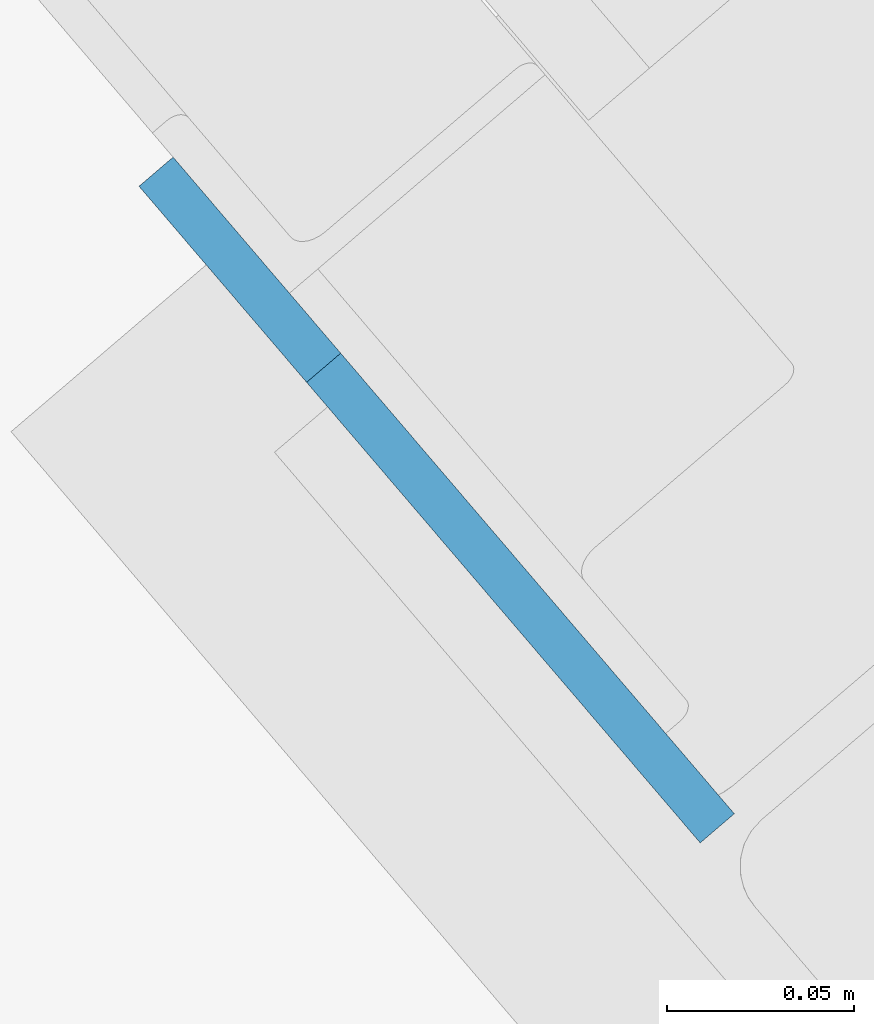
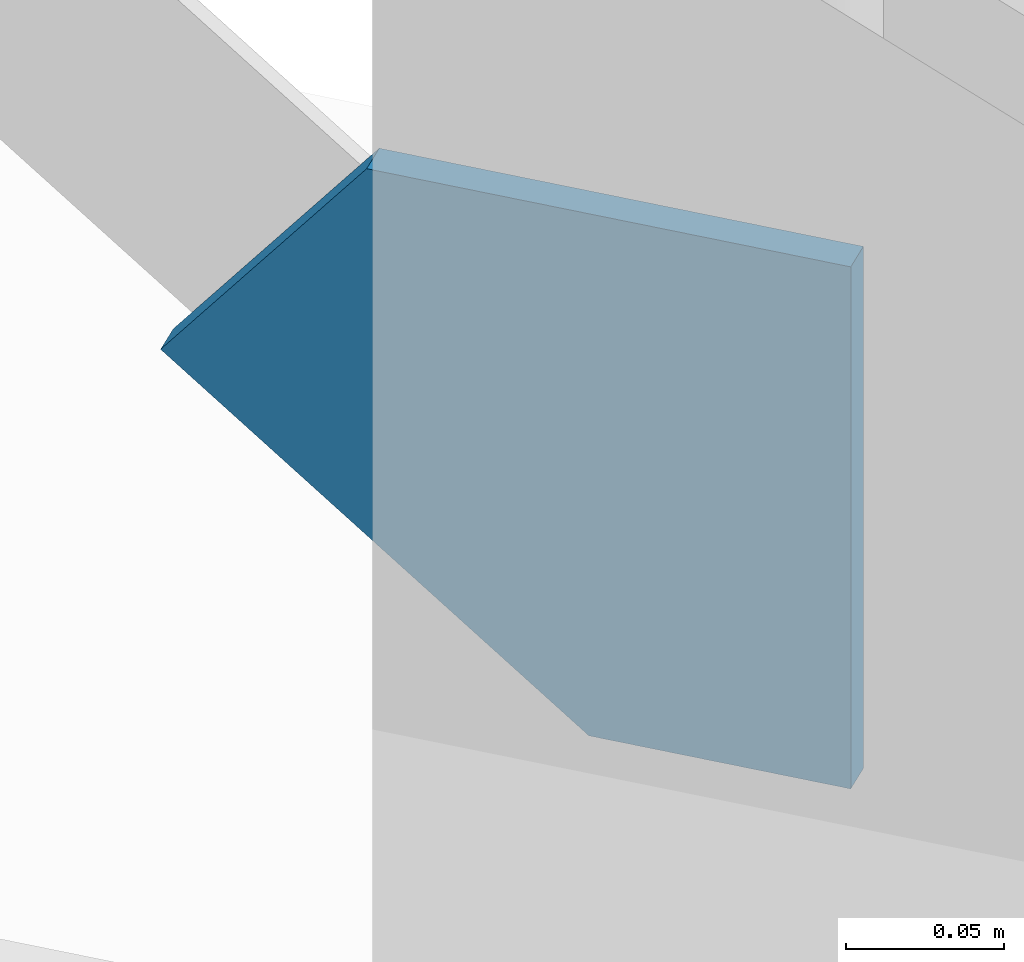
# One storey, part 39 of 41: 1 plate.
"""IFC2X3 building model written with IfcOpenShell, lengths in millimetres."""

from ifc_helpers import new_model, entity, si_unit, converted_unit, derived_unit, direction, frame, origin, origin_with_axes, place, context, project, spatial, polyline, outline, extrude, material, element, save


model = new_model("IFC2X3")

# Units and contexts
model_context = context("Model", 3, precision=0.01, world=origin(), true_north=direction((6.123031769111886e-17, 1.0)))
ifc_project = project(units=[si_unit("LENGTHUNIT", "METRE", prefix="MILLI"), si_unit("AREAUNIT", "SQUARE_METRE"), si_unit("VOLUMEUNIT", "CUBIC_METRE"), converted_unit("PLANEANGLEUNIT", "DEGREE", entity("IfcRatioMeasure", 0.017453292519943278), si_unit("PLANEANGLEUNIT", "RADIAN"), dimensions=[0, 0, 0, 0, 0, 0, 0]), si_unit("MASSUNIT", "GRAM", prefix="KILO"), derived_unit("MASSDENSITYUNIT", [(si_unit("MASSUNIT", "GRAM", prefix="KILO"), 1), (si_unit("LENGTHUNIT", "METRE"), -3)]), derived_unit("MOMENTOFINERTIAUNIT", [(si_unit("LENGTHUNIT", "METRE"), 4)]), si_unit("TIMEUNIT", "SECOND"), si_unit("FREQUENCYUNIT", "HERTZ"), si_unit("THERMODYNAMICTEMPERATUREUNIT", "DEGREE_CELSIUS"), derived_unit("THERMALTRANSMITTANCEUNIT", [(si_unit("MASSUNIT", "GRAM", prefix="KILO"), 1), (si_unit("THERMODYNAMICTEMPERATUREUNIT", "KELVIN"), -1), (si_unit("TIMEUNIT", "SECOND"), -3)]), derived_unit("VOLUMETRICFLOWRATEUNIT", [(si_unit("LENGTHUNIT", "METRE"), 3), (si_unit("TIMEUNIT", "SECOND"), -1)]), derived_unit("MASSFLOWRATEUNIT", [(si_unit("MASSUNIT", "GRAM", prefix="KILO"), 1), (si_unit("TIMEUNIT", "SECOND"), -1)]), derived_unit("ROTATIONALFREQUENCYUNIT", [(si_unit("TIMEUNIT", "SECOND"), -1)]), si_unit("ELECTRICCURRENTUNIT", "AMPERE"), si_unit("ELECTRICVOLTAGEUNIT", "VOLT"), si_unit("POWERUNIT", "WATT"), si_unit("FORCEUNIT", "NEWTON", prefix="KILO"), si_unit("ILLUMINANCEUNIT", "LUX"), si_unit("LUMINOUSFLUXUNIT", "LUMEN"), si_unit("LUMINOUSINTENSITYUNIT", "CANDELA"), derived_unit("USERDEFINED", [(si_unit("MASSUNIT", "GRAM", prefix="KILO"), -1), (si_unit("LENGTHUNIT", "METRE"), -2), (si_unit("TIMEUNIT", "SECOND"), 3), (si_unit("LUMINOUSFLUXUNIT", "LUMEN"), 1)]), derived_unit("SOUNDPOWERUNIT", [(si_unit("MASSUNIT", "GRAM", prefix="KILO"), 1), (si_unit("LENGTHUNIT", "METRE"), 2), (si_unit("TIMEUNIT", "SECOND"), -3)]), derived_unit("LINEARVELOCITYUNIT", [(si_unit("LENGTHUNIT", "METRE"), 1), (si_unit("TIMEUNIT", "SECOND"), -1)]), si_unit("PRESSUREUNIT", "PASCAL"), derived_unit("USERDEFINED", [(si_unit("LENGTHUNIT", "METRE"), -2), (si_unit("MASSUNIT", "GRAM", prefix="KILO"), 1), (si_unit("TIMEUNIT", "SECOND"), -2)]), derived_unit("LINEARFORCEUNIT", [(si_unit("MASSUNIT", "GRAM", prefix="KILO"), 1), (si_unit("LENGTHUNIT", "METRE"), 1), (si_unit("TIMEUNIT", "SECOND"), -2), (si_unit("LENGTHUNIT", "METRE"), -1)]), derived_unit("PLANARFORCEUNIT", [(si_unit("MASSUNIT", "GRAM", prefix="KILO"), 1), (si_unit("LENGTHUNIT", "METRE"), 1), (si_unit("TIMEUNIT", "SECOND"), -2), (si_unit("LENGTHUNIT", "METRE"), -2)])], contexts=[model_context])

# Site, building, storey
site_placement = place(None, frame((962.4174930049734, -6014.433753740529, 0.0), z_axis=(0.0, 0.0, 1.0), x_axis=(0.7601792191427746, 0.649713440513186, 0.0)))
site = spatial("IfcSite", under=ifc_project, at=site_placement, Name="Default", CompositionType="ELEMENT")
building_placement = place(site_placement, origin())
building = spatial("IfcBuilding", under=site, at=building_placement, CompositionType="ELEMENT")
storey_placement = place(building_placement, origin())
storey = spatial("IfcBuildingStorey", under=building, at=storey_placement, Name="Datum", CompositionType="ELEMENT", Elevation=0.0)

# Plate
ifc_material = material(Name="Metal-Steel-Galvanised")
plate_placement = place(storey_placement, frame((185645.66020471, -18370.815582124, 0.0), z_axis=(1.0, 0.0, 0.0), x_axis=(0.0, 1.0, 0.0)))
element("IfcPlate", 1, at=plate_placement, inside=storey, material=ifc_material, Name="-", ObjectType="None", context=model_context, shape_type="SweptSolid", body=[
    extrude(outline(polyline([(0.0, 0.0), (87.708572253, 0.0), (231.183766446, 115.500452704), (162.153634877, 201.25), (0.0, 201.25), (0.0, 0.0)])), origin_with_axes(), (0.0, 0.0, 1.0), 12.0),
])

save(model, "model.ifc")
